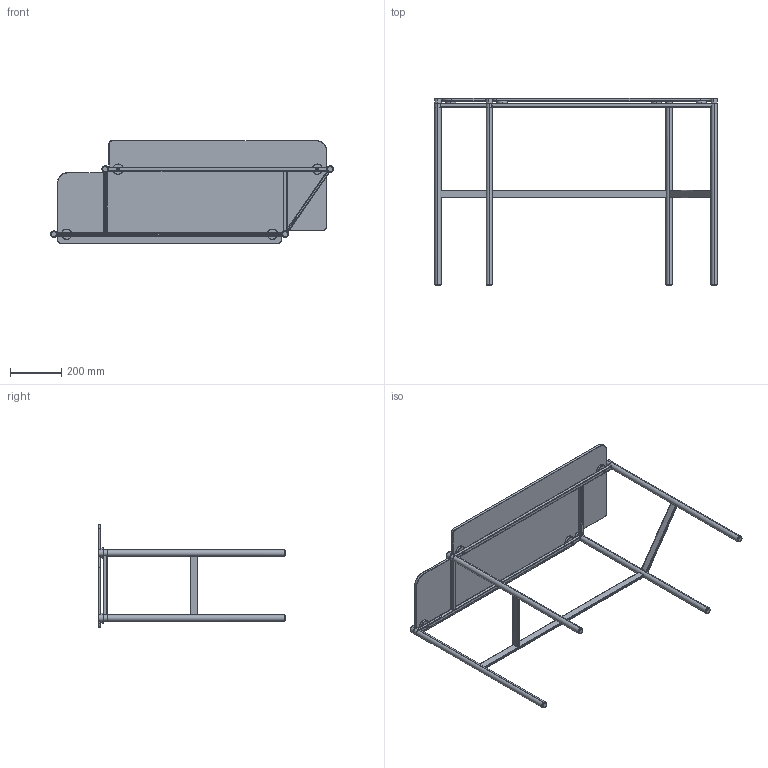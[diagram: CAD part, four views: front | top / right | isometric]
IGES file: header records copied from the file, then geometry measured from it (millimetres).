
Start section: SolidWorks IGES file using analytic representation for surfaces
Global section: file name: C:\Users\aiza\Desktop\Arita consolle_FG52002_3D\FG52002_GLASS SHELF.igs; native system: Rhinoceros ( Mar  9 2011 ); preprocessor: Trout Lake IGES 012 Mar  9 2011; date: 200929.102430; units: millimetre
Bounding box: 1100.5 x 730 x 400 mm (x, y, z)
Surface area: 1663356.8 mm2 (no closed solid volume)
Topology: 0 solids, 0 shells, 297 faces, 4581 edges, 4581 vertices
Faces by surface type: bspline 297
